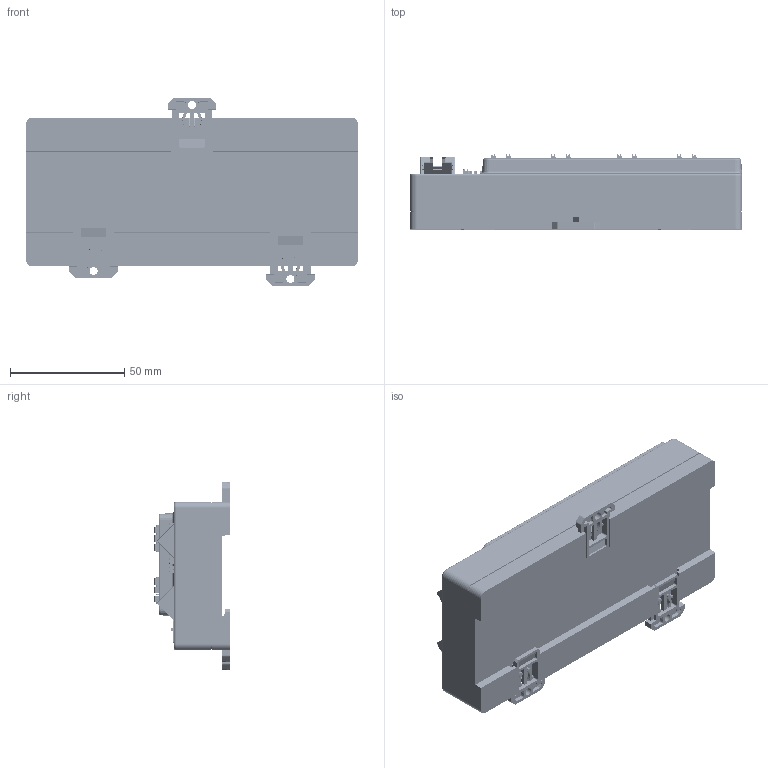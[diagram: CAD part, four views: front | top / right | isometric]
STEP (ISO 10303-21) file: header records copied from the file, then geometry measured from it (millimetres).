
FILE_DESCRIPTION((''),'2;1');
FILE_NAME('MX_32_SW0001','2026-04-01T18:16:09',('Administrator'),(''),'CREO PARAMETRIC BY PTC INC, 2022073','CREO PARAMETRIC BY PTC INC, 2022073','');
FILE_SCHEMA(('CONFIG_CONTROL_DESIGN'));
Products named in the file (1): MX_32_SW0001
Bounding box: 145 x 32.8 x 82 mm (x, y, z)
Volume: 115040.1 mm3; surface area: 162414.6 mm2
Topology: 2 solids, 25 shells, 24369 faces, 69686 edges, 45700 vertices
Faces by surface type: plane 17668, cylinder 4933, bspline 772, torus 431, cone 353, extrusion 180, sphere 32
Entity records: 926134 total; most frequent: CARTESIAN_POINT 289004, ORIENTED_EDGE 138892, DIRECTION 124363, EDGE_CURVE 69446, VECTOR 55265, LINE 55085, VERTEX_POINT 45604, AXIS2_PLACEMENT_3D 34549
